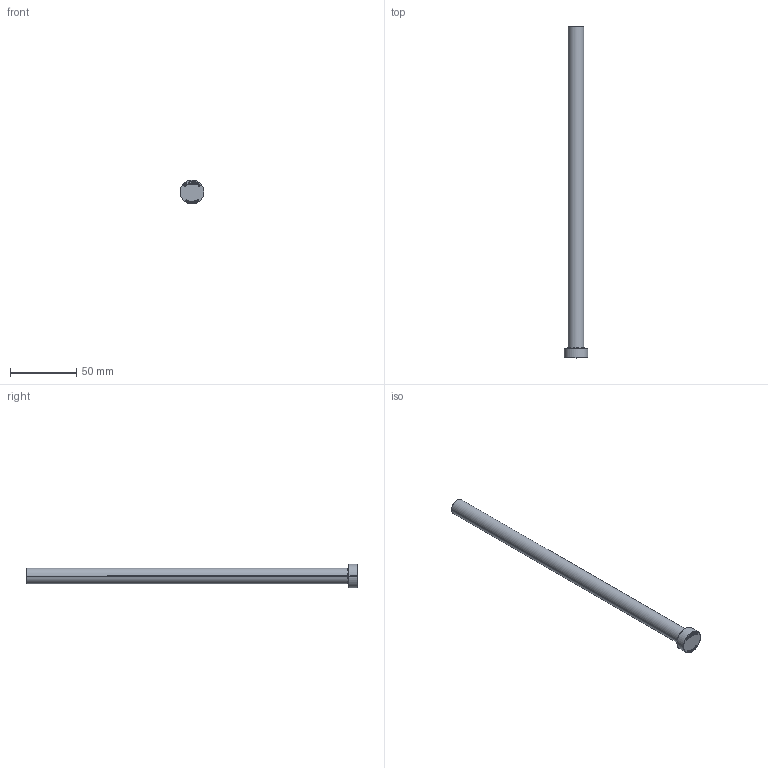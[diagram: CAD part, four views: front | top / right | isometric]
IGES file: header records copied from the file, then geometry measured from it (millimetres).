
Start section: SolidWorks IGES file using analytic representation for surfaces
Global section: file name: C:\Users\User\Downloads\Matripeça 31-08 tar\PB - PINO EXTRATOR TIPO _B_ (CATÁLOGO)\PB12,0\PB12,0250.IGS; native system: SolidWorks 2024; preprocessor: SolidWorks 2024; author: User; date: 260901.154028; units: millimetre
Bounding box: 18 x 250 x 18 mm (x, y, z)
Surface area: 10067.1 mm2 (no closed solid volume)
Topology: 0 solids, 0 shells, 400 faces, 4012 edges, 4012 vertices
Faces by surface type: bspline 386, revolution 14
